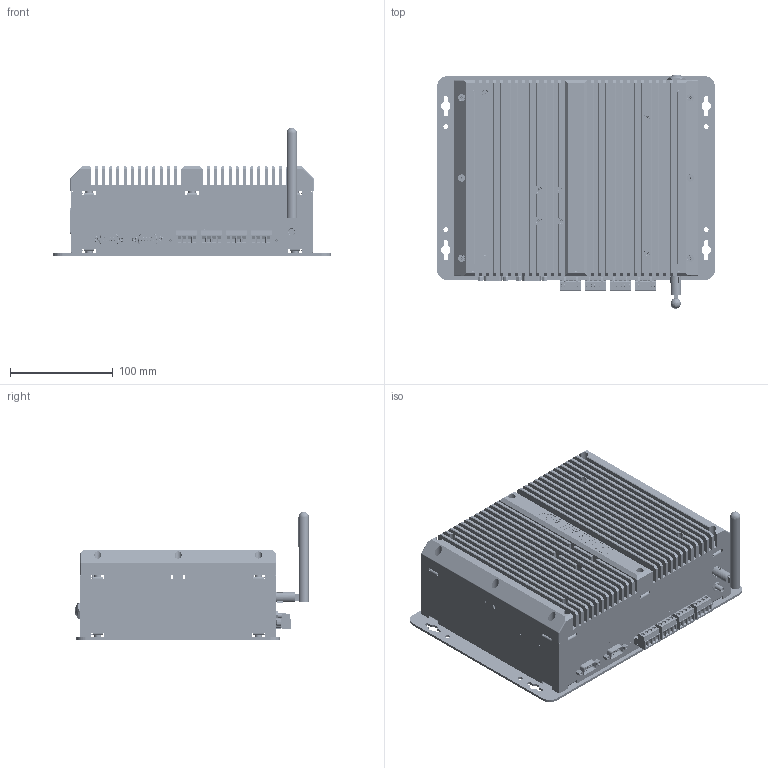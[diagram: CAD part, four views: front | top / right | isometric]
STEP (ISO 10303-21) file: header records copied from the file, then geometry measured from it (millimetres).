
FILE_DESCRIPTION(('STEP AP214'), '1');
FILE_NAME('EMB-PC', '', ('UNSPECIFIED'), ('UNSPECIFIED'), 'C3D Converter', 'C3D Toolkit', '');
FILE_SCHEMA(('AUTOMOTIVE_DESIGN { 1 0 10303 214 3 1 1}'));
Length unit declared in the file: millimetre
Products named in the file (1): EMB-PC
Bounding box: 270 x 226.93 x 124.75 mm (x, y, z)
Volume: 911601.4 mm3; surface area: 542977.2 mm2
Topology: 5 solids, 5 shells, 8463 faces, 23102 edges, 15229 vertices
Faces by surface type: plane 5102, cylinder 1680, extrusion 1234, cone 227, torus 141, bspline 68, sphere 11
Full cylindrical faces by diameter (mm): 0.6 x1, 1 x18, 1.2 x2, 1.56 x18, 1.8 x4, 1.82 x18, 2.459 x20, 2.5 x6, 2.7 x4, 3 x39, 3.2 x29, 3.3 x4, 3.5 x6, 3.95 x16, 4 x20, 4.4 x1, 4.5 x4, 4.95 x20, 5 x1, 5.6 x31, 5.917 x1, 6.4 x1, 7 x28, 10 x2, 12 x1, 12.2 x1, 13.6 x1, 14 x1
Entity records: 410102 total; most frequent: CARTESIAN_POINT 132889, ORIENTED_EDGE 45094, DIRECTION 38907, EDGE_CURVE 22547, VECTOR 16395, VERTEX_POINT 15216, LINE 15161, AXIS2_PLACEMENT_3D 11256
